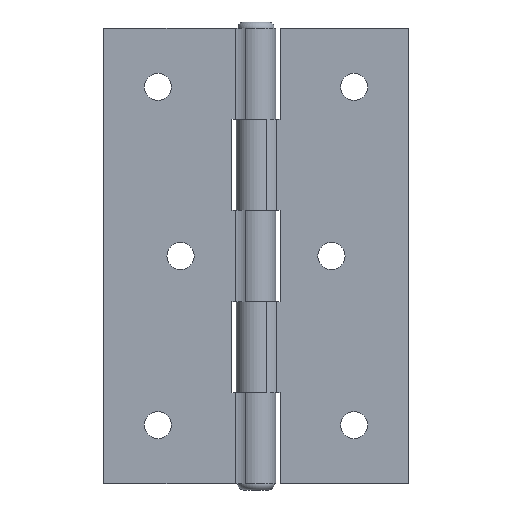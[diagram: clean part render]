
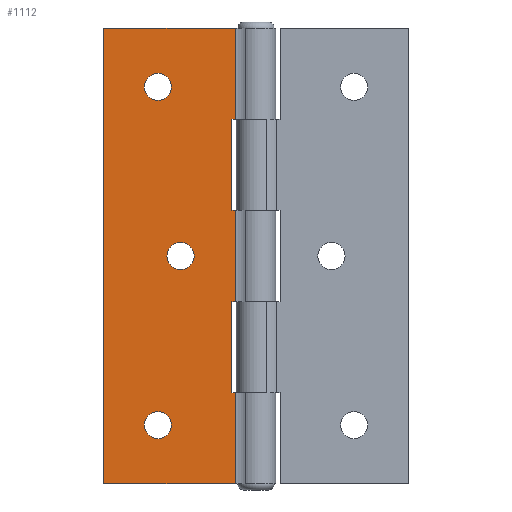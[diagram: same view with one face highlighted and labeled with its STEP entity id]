
A CAD part, front view. The second image highlights one B-rep face of the part: STEP entity #1112.
In plain terms, the highlighted planar face has unit normal (0, -1, 0).
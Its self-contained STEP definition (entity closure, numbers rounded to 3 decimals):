
#54=FACE_BOUND('',#157,.T.);
#55=FACE_BOUND('',#158,.T.);
#56=FACE_BOUND('',#159,.T.);
#89=FACE_OUTER_BOUND('',#156,.T.);
#156=EDGE_LOOP('',(#802,#803,#804,#805,#806,#807,#808,#809,#810,#811,#812,
#813));
#157=EDGE_LOOP('',(#814));
#158=EDGE_LOOP('',(#815));
#159=EDGE_LOOP('',(#816));
#262=CIRCLE('',#1200,2.25);
#263=CIRCLE('',#1201,2.25);
#264=CIRCLE('',#1202,2.25);
#310=LINE('',#1668,#402);
#314=LINE('',#1684,#406);
#317=LINE('',#1690,#409);
#320=LINE('',#1705,#412);
#324=LINE('',#1721,#416);
#327=LINE('',#1727,#419);
#330=LINE('',#1740,#422);
#331=LINE('',#1742,#423);
#332=LINE('',#1744,#424);
#333=LINE('',#1746,#425);
#334=LINE('',#1748,#426);
#335=LINE('',#1749,#427);
#402=VECTOR('',#1312,0.609);
#406=VECTOR('',#1326,15.1);
#409=VECTOR('',#1331,0.609);
#412=VECTOR('',#1344,0.609);
#416=VECTOR('',#1358,15.1);
#419=VECTOR('',#1363,0.609);
#422=VECTOR('',#1376,15.1);
#423=VECTOR('',#1377,15.1);
#424=VECTOR('',#1378,21.859);
#425=VECTOR('',#1379,75.5);
#426=VECTOR('',#1380,21.859);
#427=VECTOR('',#1381,15.1);
#494=VERTEX_POINT('',#1666);
#495=VERTEX_POINT('',#1667);
#502=VERTEX_POINT('',#1683);
#504=VERTEX_POINT('',#1689);
#510=VERTEX_POINT('',#1703);
#511=VERTEX_POINT('',#1704);
#518=VERTEX_POINT('',#1720);
#520=VERTEX_POINT('',#1726);
#526=VERTEX_POINT('',#1741);
#527=VERTEX_POINT('',#1743);
#528=VERTEX_POINT('',#1745);
#529=VERTEX_POINT('',#1747);
#530=VERTEX_POINT('',#1750);
#531=VERTEX_POINT('',#1752);
#532=VERTEX_POINT('',#1754);
#606=EDGE_CURVE('',#494,#495,#310,.T.);
#614=EDGE_CURVE('',#502,#494,#314,.T.);
#617=EDGE_CURVE('',#504,#502,#317,.T.);
#624=EDGE_CURVE('',#510,#511,#320,.T.);
#632=EDGE_CURVE('',#518,#510,#324,.T.);
#635=EDGE_CURVE('',#520,#518,#327,.T.);
#642=EDGE_CURVE('',#520,#495,#330,.T.);
#643=EDGE_CURVE('',#526,#511,#331,.T.);
#644=EDGE_CURVE('',#527,#526,#332,.T.);
#645=EDGE_CURVE('',#528,#527,#333,.T.);
#646=EDGE_CURVE('',#529,#528,#334,.T.);
#647=EDGE_CURVE('',#504,#529,#335,.T.);
#648=EDGE_CURVE('',#530,#530,#262,.T.);
#649=EDGE_CURVE('',#531,#531,#263,.T.);
#650=EDGE_CURVE('',#532,#532,#264,.T.);
#802=ORIENTED_EDGE('',*,*,#617,.T.);
#803=ORIENTED_EDGE('',*,*,#614,.T.);
#804=ORIENTED_EDGE('',*,*,#606,.T.);
#805=ORIENTED_EDGE('',*,*,#642,.F.);
#806=ORIENTED_EDGE('',*,*,#635,.T.);
#807=ORIENTED_EDGE('',*,*,#632,.T.);
#808=ORIENTED_EDGE('',*,*,#624,.T.);
#809=ORIENTED_EDGE('',*,*,#643,.F.);
#810=ORIENTED_EDGE('',*,*,#644,.F.);
#811=ORIENTED_EDGE('',*,*,#645,.F.);
#812=ORIENTED_EDGE('',*,*,#646,.F.);
#813=ORIENTED_EDGE('',*,*,#647,.F.);
#814=ORIENTED_EDGE('',*,*,#648,.T.);
#815=ORIENTED_EDGE('',*,*,#649,.T.);
#816=ORIENTED_EDGE('',*,*,#650,.T.);
#1080=PLANE('',#1199);
#1112=ADVANCED_FACE('',(#89,#54,#55,#56),#1080,.T.);
#1199=AXIS2_PLACEMENT_3D('',#1739,#1374,#1375);
#1200=AXIS2_PLACEMENT_3D('',#1751,#1382,#1383);
#1201=AXIS2_PLACEMENT_3D('',#1753,#1384,#1385);
#1202=AXIS2_PLACEMENT_3D('',#1755,#1386,#1387);
#1312=DIRECTION('',(1.,0.,0.));
#1326=DIRECTION('',(0.,0.,1.));
#1331=DIRECTION('',(-1.,0.,0.));
#1344=DIRECTION('',(1.,0.,0.));
#1358=DIRECTION('',(0.,0.,1.));
#1363=DIRECTION('',(-1.,0.,0.));
#1374=DIRECTION('center_axis',(0.,-1.,0.));
#1375=DIRECTION('ref_axis',(1.,0.,0.));
#1376=DIRECTION('',(0.,0.,-1.));
#1377=DIRECTION('',(0.,0.,-1.));
#1378=DIRECTION('',(1.,0.,0.));
#1379=DIRECTION('',(0.,0.,1.));
#1380=DIRECTION('',(-1.,0.,0.));
#1381=DIRECTION('',(0.,0.,-1.));
#1382=DIRECTION('center_axis',(0.,1.,0.));
#1383=DIRECTION('ref_axis',(1.,0.,0.));
#1384=DIRECTION('center_axis',(0.,1.,0.));
#1385=DIRECTION('ref_axis',(1.,0.,0.));
#1386=DIRECTION('center_axis',(0.,1.,0.));
#1387=DIRECTION('ref_axis',(1.,0.,0.));
#1666=CARTESIAN_POINT('',(-4.,-2.25,-7.55));
#1667=CARTESIAN_POINT('',(-3.391,-2.25,-7.55));
#1668=CARTESIAN_POINT('',(-14.625,-2.25,-7.55));
#1683=CARTESIAN_POINT('',(-4.,-2.25,-22.65));
#1684=CARTESIAN_POINT('',(-4.,-2.25,-11.325));
#1689=CARTESIAN_POINT('',(-3.391,-2.25,-22.65));
#1690=CARTESIAN_POINT('',(-10.625,-2.25,-22.65));
#1703=CARTESIAN_POINT('',(-4.,-2.25,22.65));
#1704=CARTESIAN_POINT('',(-3.391,-2.25,22.65));
#1705=CARTESIAN_POINT('',(-14.625,-2.25,22.65));
#1720=CARTESIAN_POINT('',(-4.,-2.25,7.55));
#1721=CARTESIAN_POINT('',(-4.,-2.25,3.775));
#1726=CARTESIAN_POINT('',(-3.391,-2.25,7.55));
#1727=CARTESIAN_POINT('',(-10.625,-2.25,7.55));
#1739=CARTESIAN_POINT('Origin',(-25.25,-2.25,0.));
#1740=CARTESIAN_POINT('',(-3.391,-2.25,0.));
#1741=CARTESIAN_POINT('',(-3.391,-2.25,37.75));
#1742=CARTESIAN_POINT('',(-3.391,-2.25,0.));
#1743=CARTESIAN_POINT('',(-25.25,-2.25,37.75));
#1744=CARTESIAN_POINT('',(-25.25,-2.25,37.75));
#1745=CARTESIAN_POINT('',(-25.25,-2.25,-37.75));
#1746=CARTESIAN_POINT('',(-25.25,-2.25,0.));
#1747=CARTESIAN_POINT('',(-3.391,-2.25,-37.75));
#1748=CARTESIAN_POINT('',(-25.25,-2.25,-37.75));
#1749=CARTESIAN_POINT('',(-3.391,-2.25,0.));
#1750=CARTESIAN_POINT('',(-14.75,-2.25,0.));
#1751=CARTESIAN_POINT('Origin',(-12.5,-2.25,0.));
#1752=CARTESIAN_POINT('',(-18.5,-2.25,-28.));
#1753=CARTESIAN_POINT('Origin',(-16.25,-2.25,-28.));
#1754=CARTESIAN_POINT('',(-18.5,-2.25,28.));
#1755=CARTESIAN_POINT('Origin',(-16.25,-2.25,28.));
